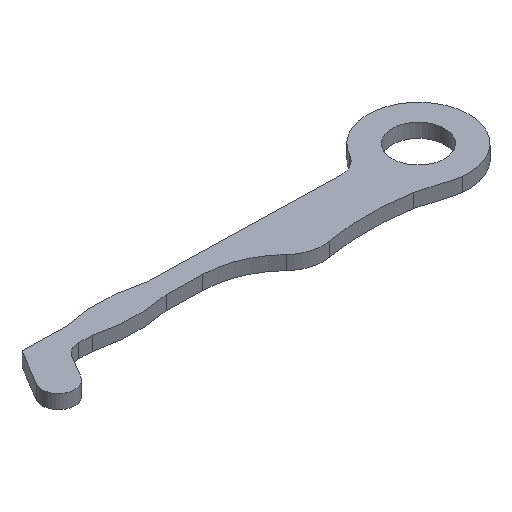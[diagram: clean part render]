
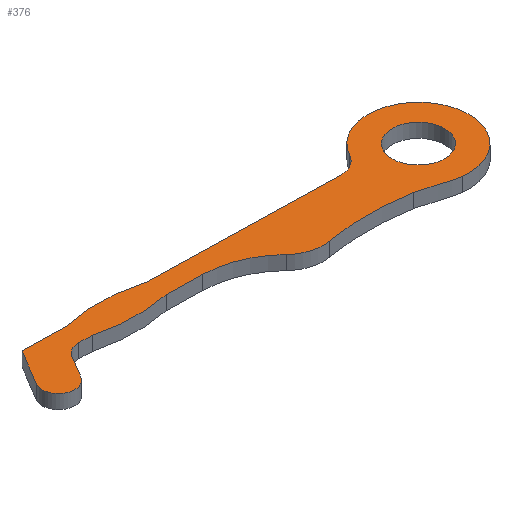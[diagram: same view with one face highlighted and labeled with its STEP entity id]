
A CAD part, isometric view. The second image highlights one B-rep face of the part: STEP entity #376.
In plain terms, the highlighted planar face has unit normal (0, 0, 1).
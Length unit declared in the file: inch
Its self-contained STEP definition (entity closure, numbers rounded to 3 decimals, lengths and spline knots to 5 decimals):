
#16=FACE_BOUND('',#52,.T.);
#18=B_SPLINE_CURVE_WITH_KNOTS('',3,(#640,#641,#642,#643),.UNSPECIFIED.,
 .F.,.F.,(4,4),(0.,1.),.UNSPECIFIED.);
#20=PLANE('',#430);
#31=FACE_OUTER_BOUND('',#51,.T.);
#51=EDGE_LOOP('',(#268,#269,#270,#271,#272,#273,#274,#275,#276,#277,#278,
#279,#280,#281,#282,#283));
#52=EDGE_LOOP('',(#284,#285));
#78=LINE('',#623,#107);
#79=LINE('',#625,#108);
#80=LINE('',#629,#109);
#81=LINE('',#633,#110);
#82=LINE('',#647,#111);
#83=LINE('',#650,#112);
#107=VECTOR('',#504,228.34646);
#108=VECTOR('',#505,228.34646);
#109=VECTOR('',#508,228.34646);
#110=VECTOR('',#511,228.34646);
#111=VECTOR('',#520,228.34646);
#112=VECTOR('',#523,228.34646);
#126=CIRCLE('',#413,0.17126);
#127=CIRCLE('',#414,0.17126);
#130=CIRCLE('',#418,0.3311);
#131=CIRCLE('',#420,0.10653);
#140=CIRCLE('',#431,0.1132);
#141=CIRCLE('',#432,1.02463);
#142=CIRCLE('',#433,0.57751);
#143=CIRCLE('',#434,0.25167);
#144=CIRCLE('',#435,1.54816);
#145=CIRCLE('',#436,0.15775);
#146=CIRCLE('',#437,1.03278);
#149=VERTEX_POINT('',#567);
#150=VERTEX_POINT('',#569);
#153=VERTEX_POINT('',#577);
#154=VERTEX_POINT('',#579);
#155=VERTEX_POINT('',#583);
#157=VERTEX_POINT('',#586);
#171=VERTEX_POINT('',#622);
#172=VERTEX_POINT('',#624);
#173=VERTEX_POINT('',#626);
#174=VERTEX_POINT('',#628);
#175=VERTEX_POINT('',#630);
#176=VERTEX_POINT('',#632);
#177=VERTEX_POINT('',#634);
#178=VERTEX_POINT('',#636);
#179=VERTEX_POINT('',#638);
#180=VERTEX_POINT('',#644);
#181=VERTEX_POINT('',#646);
#182=VERTEX_POINT('',#648);
#185=EDGE_CURVE('',#150,#149,#126,.T.);
#186=EDGE_CURVE('',#149,#150,#127,.T.);
#190=EDGE_CURVE('',#153,#154,#130,.T.);
#193=EDGE_CURVE('',#157,#155,#131,.T.);
#210=EDGE_CURVE('',#157,#171,#78,.T.);
#211=EDGE_CURVE('',#172,#155,#79,.T.);
#212=EDGE_CURVE('',#173,#172,#140,.T.);
#213=EDGE_CURVE('',#174,#173,#80,.T.);
#214=EDGE_CURVE('',#175,#174,#141,.T.);
#215=EDGE_CURVE('',#176,#175,#81,.T.);
#216=EDGE_CURVE('',#177,#176,#142,.T.);
#217=EDGE_CURVE('',#178,#177,#143,.T.);
#218=EDGE_CURVE('',#179,#178,#144,.T.);
#219=EDGE_CURVE('',#154,#179,#18,.T.);
#220=EDGE_CURVE('',#180,#153,#145,.T.);
#221=EDGE_CURVE('',#181,#180,#82,.T.);
#222=EDGE_CURVE('',#182,#181,#146,.T.);
#223=EDGE_CURVE('',#171,#182,#83,.T.);
#268=ORIENTED_EDGE('',*,*,#210,.F.);
#269=ORIENTED_EDGE('',*,*,#193,.T.);
#270=ORIENTED_EDGE('',*,*,#211,.F.);
#271=ORIENTED_EDGE('',*,*,#212,.F.);
#272=ORIENTED_EDGE('',*,*,#213,.F.);
#273=ORIENTED_EDGE('',*,*,#214,.F.);
#274=ORIENTED_EDGE('',*,*,#215,.F.);
#275=ORIENTED_EDGE('',*,*,#216,.F.);
#276=ORIENTED_EDGE('',*,*,#217,.F.);
#277=ORIENTED_EDGE('',*,*,#218,.F.);
#278=ORIENTED_EDGE('',*,*,#219,.F.);
#279=ORIENTED_EDGE('',*,*,#190,.F.);
#280=ORIENTED_EDGE('',*,*,#220,.F.);
#281=ORIENTED_EDGE('',*,*,#221,.F.);
#282=ORIENTED_EDGE('',*,*,#222,.F.);
#283=ORIENTED_EDGE('',*,*,#223,.F.);
#284=ORIENTED_EDGE('',*,*,#185,.T.);
#285=ORIENTED_EDGE('',*,*,#186,.T.);
#376=ADVANCED_FACE('',(#31,#16),#20,.T.);
#413=AXIS2_PLACEMENT_3D('',#570,#458,#459);
#414=AXIS2_PLACEMENT_3D('',#571,#460,#461);
#418=AXIS2_PLACEMENT_3D('',#580,#469,#470);
#420=AXIS2_PLACEMENT_3D('',#587,#475,#476);
#430=AXIS2_PLACEMENT_3D('',#621,#502,#503);
#431=AXIS2_PLACEMENT_3D('',#627,#506,#507);
#432=AXIS2_PLACEMENT_3D('',#631,#509,#510);
#433=AXIS2_PLACEMENT_3D('',#635,#512,#513);
#434=AXIS2_PLACEMENT_3D('',#637,#514,#515);
#435=AXIS2_PLACEMENT_3D('',#639,#516,#517);
#436=AXIS2_PLACEMENT_3D('',#645,#518,#519);
#437=AXIS2_PLACEMENT_3D('',#649,#521,#522);
#458=DIRECTION('center_axis',(0.,0.,
-1.));
#459=DIRECTION('ref_axis',(-1.,0.01,0.));
#460=DIRECTION('center_axis',(0.,0.,
-1.));
#461=DIRECTION('ref_axis',(-1.,0.01,0.));
#469=DIRECTION('center_axis',(0.,0.,
-1.));
#470=DIRECTION('ref_axis',(1.,-0.01,0.));
#475=DIRECTION('center_axis',(0.,0.,
1.));
#476=DIRECTION('ref_axis',(1.,-0.01,0.));
#502=DIRECTION('center_axis',(0.,0.,
1.));
#503=DIRECTION('ref_axis',(1.,-0.01,0.));
#504=DIRECTION('',(0.516,0.857,0.));
#505=DIRECTION('',(-0.516,-0.857,0.));
#506=DIRECTION('center_axis',(0.,0.,
1.));
#507=DIRECTION('ref_axis',(-1.,0.01,0.));
#508=DIRECTION('',(-1.,0.024,0.));
#509=DIRECTION('center_axis',(0.,0.,
-1.));
#510=DIRECTION('ref_axis',(-1.,0.01,0.));
#511=DIRECTION('',(-1.,0.024,0.));
#512=DIRECTION('center_axis',(0.,0.,
1.));
#513=DIRECTION('ref_axis',(-1.,0.01,0.));
#514=DIRECTION('center_axis',(0.,0.,
-1.));
#515=DIRECTION('ref_axis',(1.,-0.01,0.));
#516=DIRECTION('center_axis',(0.,0.,
1.));
#517=DIRECTION('ref_axis',(-1.,0.01,0.));
#518=DIRECTION('center_axis',(0.,0.,
1.));
#519=DIRECTION('ref_axis',(-1.,0.01,0.));
#520=DIRECTION('',(1.,-0.024,0.));
#521=DIRECTION('center_axis',(0.,0.,
-1.));
#522=DIRECTION('ref_axis',(1.,-0.01,0.));
#523=DIRECTION('',(1.,-0.024,0.));
#567=CARTESIAN_POINT('',(1.78463,3.0669,-0.30827));
#569=CARTESIAN_POINT('',(2.12713,3.06337,-0.30827));
#570=CARTESIAN_POINT('Origin',(1.95588,3.06513,-0.30827));
#571=CARTESIAN_POINT('Origin',(1.95588,3.06513,-0.30827));
#577=CARTESIAN_POINT('',(1.66479,3.22292,-0.30827));
#579=CARTESIAN_POINT('',(1.91489,2.73658,-0.30827));
#580=CARTESIAN_POINT('Origin',(1.95588,3.06513,-0.30827));
#583=CARTESIAN_POINT('',(-0.46808,2.84679,-0.30827));
#586=CARTESIAN_POINT('',(-0.6506,2.9567,-0.30827));
#587=CARTESIAN_POINT('Origin',(-0.55934,2.90174,-0.30827));
#621=CARTESIAN_POINT('Origin',(1.78906,2.76877,-0.30827));
#622=CARTESIAN_POINT('',(-0.51069,3.18905,-0.30827));
#623=CARTESIAN_POINT('',(-0.51069,3.18905,-0.30827));
#624=CARTESIAN_POINT('',(-0.37979,2.9934,-0.30827));
#625=CARTESIAN_POINT('',(-0.52304,2.75553,-0.30827));
#626=CARTESIAN_POINT('',(-0.28011,3.04817,-0.30827));
#627=CARTESIAN_POINT('Origin',(-0.28282,2.93501,-0.30827));
#628=CARTESIAN_POINT('',(-0.19468,3.04613,-0.30827));
#629=CARTESIAN_POINT('',(-0.28011,3.04817,-0.30827));
#630=CARTESIAN_POINT('',(0.27678,3.03484,-0.30827));
#631=CARTESIAN_POINT('Origin',(0.06491,4.03733,-0.30827));
#632=CARTESIAN_POINT('',(0.51131,3.02923,-0.30827));
#633=CARTESIAN_POINT('',(0.27678,3.03484,-0.30827));
#634=CARTESIAN_POINT('',(0.8961,2.86977,-0.30827));
#635=CARTESIAN_POINT('Origin',(0.49749,2.45189,-0.30827));
#636=CARTESIAN_POINT('',(1.11453,2.80421,-0.30827));
#637=CARTESIAN_POINT('Origin',(1.06981,3.05187,-0.30827));
#638=CARTESIAN_POINT('',(1.66316,2.80449,-0.30827));
#639=CARTESIAN_POINT('Origin',(1.38964,1.28068,-0.30827));
#640=CARTESIAN_POINT('Ctrl Pts',(1.91489,2.73658,-0.30827));
#641=CARTESIAN_POINT('Ctrl Pts',(1.8291,2.74728,-0.30827));
#642=CARTESIAN_POINT('Ctrl Pts',(1.74904,2.78908,-0.30827));
#643=CARTESIAN_POINT('Ctrl Pts',(1.66316,2.80449,-0.30827));
#644=CARTESIAN_POINT('',(1.52232,3.14039,-0.30827));
#645=CARTESIAN_POINT('Origin',(1.5261,3.29809,-0.30827));
#646=CARTESIAN_POINT('',(0.2892,3.1699,-0.30827));
#647=CARTESIAN_POINT('',(1.52232,3.14039,-0.30827));
#648=CARTESIAN_POINT('',(-0.22837,3.18229,-0.30827));
#649=CARTESIAN_POINT('Origin',(0.00649,2.17657,-0.30827));
#650=CARTESIAN_POINT('',(-0.22837,3.18229,-0.30827));
